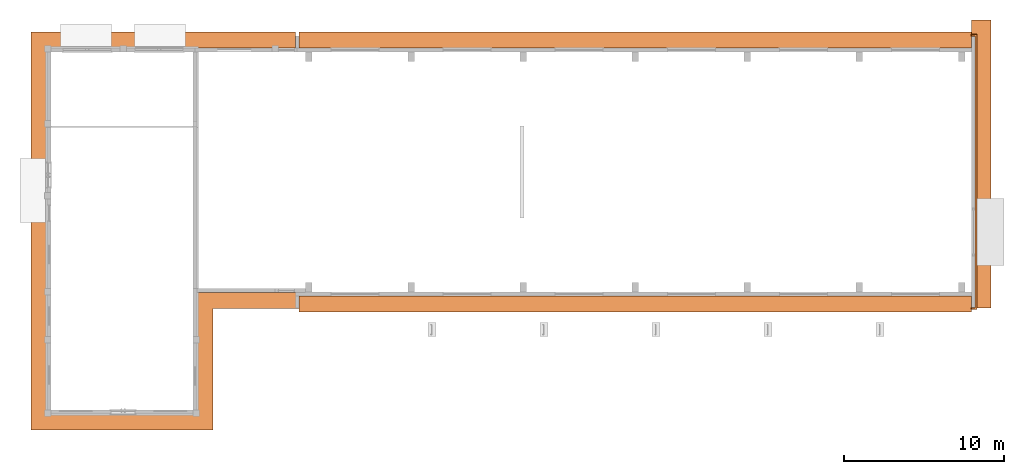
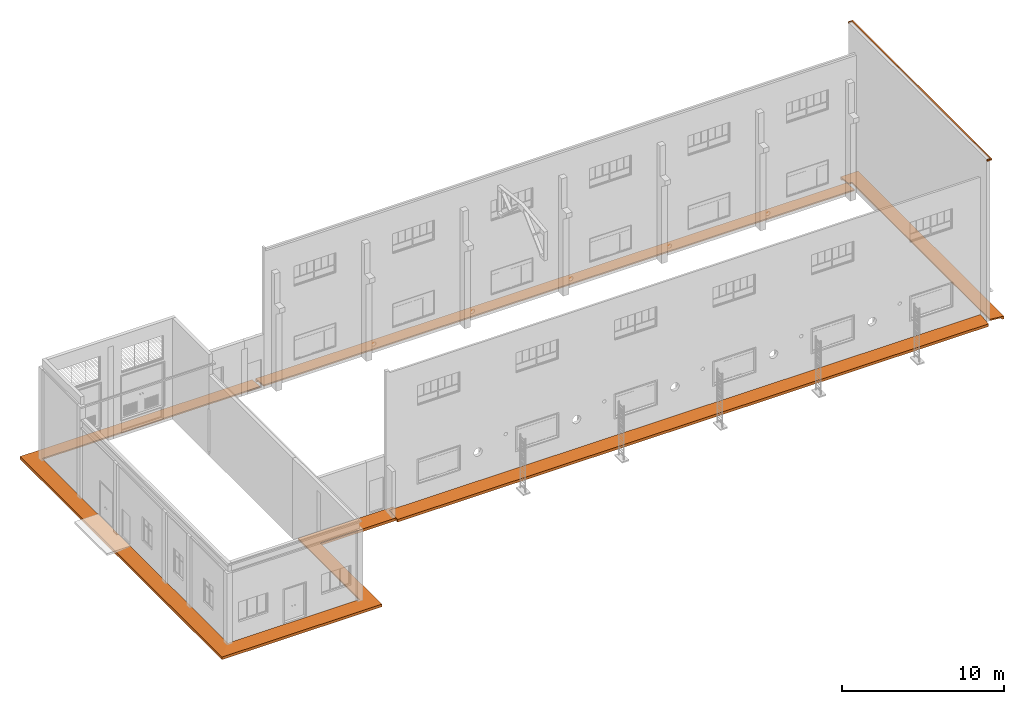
# One storey, part 8 of 8: 2 proxies.
"""IFC2X3 building model written with IfcOpenShell, lengths in millimetres."""

from ifc_helpers import new_model, entity, si_unit, converted_unit, derived_unit, direction, frame, origin, place, context, subcontext, project, spatial, faceted_brep, element, save


model = new_model("IFC2X3")

# Units and contexts
model_context = context("Model", 3, precision=0.01, world=origin(), true_north=direction((6.12303176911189e-17, 1.0)))
body_context = subcontext(model_context, "Body", "Model", "MODEL_VIEW")
ifc_project = project(units=[si_unit("LENGTHUNIT", "METRE", prefix="MILLI"), si_unit("AREAUNIT", "SQUARE_METRE"), si_unit("VOLUMEUNIT", "CUBIC_METRE"), converted_unit("PLANEANGLEUNIT", "DEGREE", entity("IfcRatioMeasure", 0.0174532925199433), si_unit("PLANEANGLEUNIT", "RADIAN"), dimensions=[0, 0, 0, 0, 0, 0, 0]), si_unit("MASSUNIT", "GRAM", prefix="KILO"), derived_unit("MASSDENSITYUNIT", [(si_unit("MASSUNIT", "GRAM", prefix="KILO"), 1), (si_unit("LENGTHUNIT", "METRE"), -3)]), si_unit("TIMEUNIT", "SECOND"), si_unit("FREQUENCYUNIT", "HERTZ"), si_unit("THERMODYNAMICTEMPERATUREUNIT", "DEGREE_CELSIUS"), derived_unit("THERMALTRANSMITTANCEUNIT", [(si_unit("MASSUNIT", "GRAM", prefix="KILO"), 1), (si_unit("THERMODYNAMICTEMPERATUREUNIT", "KELVIN"), -1), (si_unit("TIMEUNIT", "SECOND"), -3)]), derived_unit("VOLUMETRICFLOWRATEUNIT", [(si_unit("LENGTHUNIT", "METRE"), 3), (si_unit("TIMEUNIT", "SECOND"), -1)]), si_unit("ELECTRICCURRENTUNIT", "AMPERE"), si_unit("ELECTRICVOLTAGEUNIT", "VOLT"), si_unit("POWERUNIT", "WATT"), si_unit("FORCEUNIT", "NEWTON", prefix="KILO"), si_unit("ILLUMINANCEUNIT", "LUX"), si_unit("LUMINOUSFLUXUNIT", "LUMEN"), si_unit("LUMINOUSINTENSITYUNIT", "CANDELA"), derived_unit("USERDEFINED", [(si_unit("MASSUNIT", "GRAM", prefix="KILO"), -1), (si_unit("LENGTHUNIT", "METRE"), -2), (si_unit("TIMEUNIT", "SECOND"), 3), (si_unit("LUMINOUSFLUXUNIT", "LUMEN"), 1)]), derived_unit("LINEARVELOCITYUNIT", [(si_unit("LENGTHUNIT", "METRE"), 1), (si_unit("TIMEUNIT", "SECOND"), -1)]), si_unit("PRESSUREUNIT", "PASCAL"), derived_unit("USERDEFINED", [(si_unit("LENGTHUNIT", "METRE"), -2), (si_unit("MASSUNIT", "GRAM", prefix="KILO"), 1), (si_unit("TIMEUNIT", "SECOND"), -2)])], contexts=[model_context])

# Site, building, storey
site_placement = place(None, origin())
site = spatial("IfcSite", under=ifc_project, at=site_placement, Name="表面", CompositionType="ELEMENT")
building_placement = place(site_placement, origin())
building = spatial("IfcBuilding", under=site, at=building_placement, CompositionType="ELEMENT")
storey_placement = place(building_placement, frame((0.0, 0.0, -200.0)))
storey = spatial("IfcBuildingStorey", under=building, at=storey_placement, Name="室外地坪", CompositionType="ELEMENT", Elevation=-200.0)

# Proxies
proxy_1_placement = place(storey_placement, frame((-48768.7987814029, -8010.30259261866, -200.0)))
element("IfcBuildingElementProxy", 1, at=proxy_1_placement, inside=storey, Name="墙饰条:室外散水", ObjectType="墙饰条:室外散水", context=body_context, shape_type="Brep", body=[
    faceted_brep([(0.0, 0.0, 200.0), (1000.0, 1000.0, 300.0), (1000.0, 1000.0, 200.0), (200.0, 200.0, 120.0), (141.050344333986, 141.050344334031, 0.0), (0.0, 0.0, 0.0), (11360.0, 0.0, 200.0), (11360.0, 0.0, 0.0), (11218.9496556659, 141.050344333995, 0.0), (11160.0, 200.0, 120.0), (10360.0, 1000.0, 200.0), (10360.0, 1000.0, 300.0)], [[[0, 1, 2, 3, 4, 5]], [[6, 7, 8, 9, 10, 11]], [[1, 0, 6, 11]], [[2, 1, 11, 10]], [[3, 2, 10, 9]], [[4, 3, 9, 8]], [[5, 4, 8, 7]], [[0, 5, 7, 6]]]),
    faceted_brep([(0.0, 0.0, 200.0), (0.0, 0.0, 0.0), (141.050344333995, 141.050344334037, 0.0), (200.0, 200.0, 120.0), (1000.0, 1000.0, 200.0), (1000.0, 1000.0, 300.0), (0.0, 19120.0, 200.0), (1000.0, 19120.0, 300.0), (1000.0, 19120.0, 200.0), (200.0, 19120.0, 120.0), (141.050344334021, 19120.0, 0.0), (0.0, 19120.0, 0.0)], [[[0, 1, 2, 3, 4, 5]], [[6, 7, 8, 9, 10, 11]], [[1, 0, 6, 11]], [[2, 1, 11, 10]], [[3, 2, 10, 9]], [[4, 3, 9, 8]], [[5, 4, 8, 7]], [[0, 5, 7, 6]]]),
    faceted_brep([(0.0, 24860.0, 200.0), (0.0, 24860.0, 0.0), (141.050344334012, 24718.949655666, 0.0), (200.0, 24660.0, 120.0), (1000.0, 23860.0, 200.0), (1000.0, 23860.0, 300.0), (10240.0, 24860.0, 200.0), (10240.0, 23860.0, 300.0), (10240.0, 23860.0, 200.0), (10240.0, 24660.0, 120.0), (10240.0, 24718.949655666, 0.0), (10240.0, 24860.0, 0.0)], [[[0, 1, 2, 3, 4, 5]], [[6, 7, 8, 9, 10, 11]], [[1, 0, 6, 11]], [[2, 1, 11, 10]], [[3, 2, 10, 9]], [[4, 3, 9, 8]], [[5, 4, 8, 7]], [[0, 5, 7, 6]]]),
    faceted_brep([(10240.0, 24860.0, 200.0), (10240.0, 24860.0, 0.0), (10240.0, 24718.949655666, 0.0), (10240.0, 24660.0, 120.0), (10240.0, 23860.0, 200.0), (10240.0, 23860.0, 300.0), (15240.0, 24860.0, 200.0), (15240.0, 23860.0, 300.0), (15240.0, 23860.0, 200.0), (15240.0, 24660.0, 120.0), (15240.0, 24718.949655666, 0.0), (15240.0, 24860.0, 0.0)], [[[0, 1, 2, 3, 4, 5]], [[6, 7, 8, 9, 10, 11]], [[1, 0, 6, 11]], [[2, 1, 11, 10]], [[3, 2, 10, 9]], [[4, 3, 9, 8]], [[5, 4, 8, 7]], [[0, 5, 7, 6]]]),
    faceted_brep([(15240.0, 24860.0, 200.0), (15240.0, 24860.0, 0.0), (15240.0, 24718.949655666, 0.0), (15240.0, 24660.0, 120.0), (15240.0, 23860.0, 200.0), (15240.0, 23860.0, 300.0), (16500.0, 24860.0, 200.0), (16500.0, 23860.0, 300.0), (16500.0, 23860.0, 200.0), (16500.0, 24660.0, 120.0), (16500.0, 24718.949655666, 0.0), (16500.0, 24860.0, 0.0)], [[[0, 1, 2, 3, 4, 5]], [[6, 7, 8, 9, 10, 11]], [[1, 0, 6, 11]], [[2, 1, 11, 10]], [[3, 2, 10, 9]], [[4, 3, 9, 8]], [[5, 4, 8, 7]], [[0, 5, 7, 6]]]),
    faceted_brep([(16740.0, 24860.0, 200.0), (16740.0, 24860.0, 0.0), (16740.0, 24718.949655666, 0.0), (16740.0, 24660.0, 120.0), (16740.0, 23860.0, 200.0), (16740.0, 23860.0, 300.0), (58740.0, 24860.0, 200.0), (58740.0, 23860.0, 300.0), (58740.0, 23860.0, 200.0), (58740.0, 24660.0, 120.0), (58740.0, 24718.9496556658, 0.0), (58740.0, 24860.0, 0.0)], [[[0, 1, 2, 3, 4, 5]], [[6, 7, 8, 9, 10, 11]], [[1, 0, 6, 11]], [[2, 1, 11, 10]], [[3, 2, 10, 9]], [[4, 3, 9, 8]], [[5, 4, 8, 7]], [[0, 5, 7, 6]]]),
    faceted_brep([(59980.0, 7630.0, 200.0), (58980.0, 7630.0, 300.0), (58980.0, 7630.0, 200.0), (59780.0, 7630.0, 120.0), (59838.949655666, 7630.0, 0.0), (59980.0, 7630.0, 0.0), (59980.0, 25610.0, 200.0), (58980.0, 24610.0, 300.0), (58980.0, 24610.0, 200.0), (59780.0, 25410.0, 120.0), (59838.949655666, 25468.949655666, 0.0), (59980.0, 25610.0, 0.0), (58740.0, 25610.0, 200.0), (58740.0, 25610.0, 0.0), (58740.0, 25468.949655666, 0.0), (58740.0, 25410.0, 120.0), (58740.0, 24610.0, 200.0), (58740.0, 24610.0, 300.0)], [[[0, 1, 2, 3, 4, 5]], [[1, 0, 6, 7]], [[2, 1, 7, 8]], [[3, 2, 8, 9]], [[4, 3, 9, 10]], [[5, 4, 10, 11]], [[0, 5, 11, 6]], [[12, 13, 14, 15, 16, 17]], [[7, 6, 12, 17]], [[8, 7, 17, 16]], [[9, 8, 16, 15]], [[10, 9, 15, 14]], [[11, 10, 14, 13]], [[6, 11, 13, 12]]]),
    faceted_brep([(16740.0, 7380.0, 200.0), (16740.0, 8380.0, 300.0), (16740.0, 8380.0, 200.0), (16740.0, 7580.0, 120.0), (16740.0, 7521.05034433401, 0.0), (16740.0, 7380.0, 0.0), (58740.0, 7380.0, 200.0), (58740.0, 7380.0, 0.0), (58740.0, 7521.05034433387, 0.0), (58740.0, 7580.0, 120.0), (58740.0, 8380.0, 200.0), (58740.0, 8380.0, 300.0)], [[[0, 1, 2, 3, 4, 5]], [[6, 7, 8, 9, 10, 11]], [[1, 0, 6, 11]], [[2, 1, 11, 10]], [[3, 2, 10, 9]], [[4, 3, 9, 8]], [[5, 4, 8, 7]], [[0, 5, 7, 6]]]),
    faceted_brep([(11360.0, 0.0, 200.0), (10360.0, 1000.0, 300.0), (10360.0, 1000.0, 200.0), (11160.0, 200.0, 120.0), (11218.9496556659, 141.050344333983, 0.0), (11360.0, 0.0, 0.0), (11360.0, 7580.0, 200.0), (11360.0, 7580.0, 0.0), (11218.9496556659, 7721.05034433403, 0.0), (11160.0, 7780.0, 120.0), (10360.0, 8580.0, 200.0), (10360.0, 8580.0, 300.0)], [[[0, 1, 2, 3, 4, 5]], [[6, 7, 8, 9, 10, 11]], [[1, 0, 6, 11]], [[2, 1, 11, 10]], [[3, 2, 10, 9]], [[4, 3, 9, 8]], [[5, 4, 8, 7]], [[0, 5, 7, 6]]]),
    faceted_brep([(11360.0, 7580.0, 200.0), (10360.0, 8580.0, 300.0), (10360.0, 8580.0, 200.0), (11160.0, 7780.0, 120.0), (11218.9496556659, 7721.05034433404, 0.0), (11360.0, 7580.0, 0.0), (15240.0, 7580.0, 200.0), (15240.0, 7580.0, 0.0), (15240.0, 7721.05034433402, 0.0), (15240.0, 7780.0, 120.0), (15240.0, 8580.0, 200.0), (15240.0, 8580.0, 300.0)], [[[0, 1, 2, 3, 4, 5]], [[6, 7, 8, 9, 10, 11]], [[1, 0, 6, 11]], [[2, 1, 11, 10]], [[3, 2, 10, 9]], [[4, 3, 9, 8]], [[5, 4, 8, 7]], [[0, 5, 7, 6]]]),
    faceted_brep([(15240.0, 7580.0, 200.0), (15240.0, 8580.0, 300.0), (15240.0, 8580.0, 200.0), (15240.0, 7780.0, 120.0), (15240.0, 7721.05034433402, 0.0), (15240.0, 7580.0, 0.0), (17140.0, 7580.0, 200.0), (17140.0, 7580.0, 0.0), (17140.0, 7721.05034433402, 0.0), (17140.0, 7780.0, 120.0), (17140.0, 8580.0, 200.0), (17140.0, 8580.0, 300.0)], [[[0, 1, 2, 3, 4, 5]], [[6, 7, 8, 9, 10, 11]], [[1, 0, 6, 11]], [[2, 1, 11, 10]], [[3, 2, 10, 9]], [[4, 3, 9, 8]], [[5, 4, 8, 7]], [[0, 5, 7, 6]]]),
    faceted_brep([(0.0, 19120.0, 200.0), (0.0, 19120.0, 0.0), (141.050344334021, 19120.0, 0.0), (200.0, 19120.0, 120.0), (1000.0, 19120.0, 200.0), (1000.0, 19120.0, 300.0), (0.0, 24860.0, 200.0), (1000.0, 23860.0, 300.0), (1000.0, 23860.0, 200.0), (200.0, 24660.0, 120.0), (141.05034433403, 24718.949655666, 0.0), (0.0, 24860.0, 0.0)], [[[0, 1, 2, 3, 4, 5]], [[6, 7, 8, 9, 10, 11]], [[1, 0, 6, 11]], [[2, 1, 11, 10]], [[3, 2, 10, 9]], [[4, 3, 9, 8]], [[5, 4, 8, 7]], [[0, 5, 7, 6]]]),
])
proxy_2_placement = place(storey_placement, frame((9971.20121859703, -480.302592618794, 12100.0)))
element("IfcBuildingElementProxy", 2, at=proxy_2_placement, inside=storey, Name="墙饰条:压顶", ObjectType="墙饰条:压顶", context=body_context, shape_type="Brep", body=[
    faceted_brep([(240.0, 100.0, 100.0), (340.0, 0.0, 100.0), (340.0, 17180.0, 100.0), (240.0, 17080.0, 100.0), (240.0, 100.0, 0.0), (240.0, 17080.0, 0.0), (340.0, 0.0, 0.0), (340.0, 17180.0, 0.0), (0.0, 0.0, 100.0), (0.0, 100.0, 100.0), (0.0, 100.0, 0.0), (0.0, 0.0, 0.0), (0.0, 17180.0, 100.0), (0.0, 17180.0, 0.0), (0.0, 17080.0, 0.0), (0.0, 17080.0, 100.0)], [[[0, 1, 2, 3]], [[4, 0, 3, 5]], [[6, 4, 5, 7]], [[1, 6, 7, 2]], [[8, 9, 10, 11]], [[9, 8, 1, 0]], [[10, 9, 0, 4]], [[11, 10, 4, 6]], [[8, 11, 6, 1]], [[12, 13, 14, 15]], [[3, 2, 12, 15]], [[5, 3, 15, 14]], [[7, 5, 14, 13]], [[2, 7, 13, 12]]]),
])

save(model, "model.ifc")
